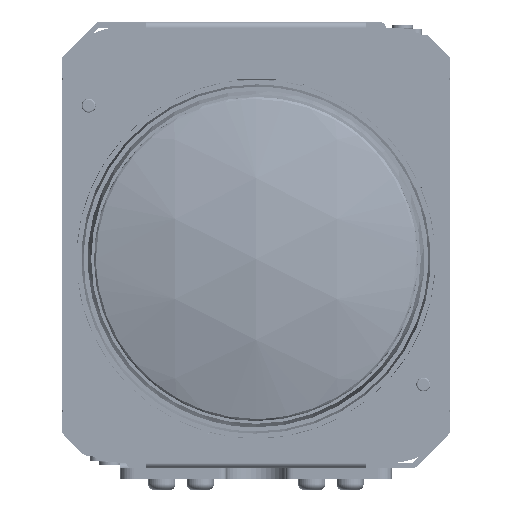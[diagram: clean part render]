
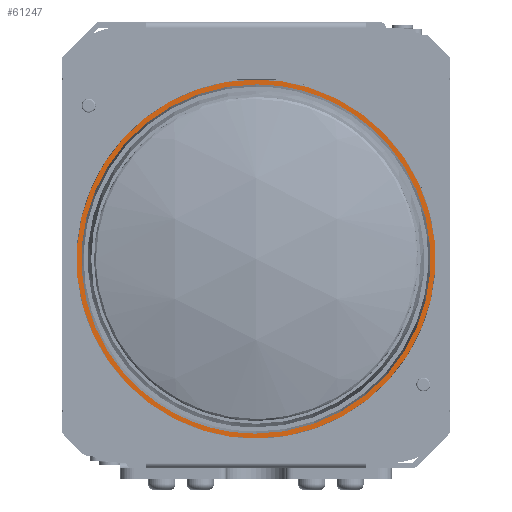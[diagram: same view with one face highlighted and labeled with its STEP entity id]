
A CAD part, left-side view. The second image highlights one B-rep face of the part: STEP entity #61247.
In plain terms, the highlighted planar face has unit normal (-1, 0, 0).
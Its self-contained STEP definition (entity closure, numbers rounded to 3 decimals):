
#61247 = ADVANCED_FACE( '', ( #114010, #114011 ), #114012, .T. );
#114010 = FACE_BOUND( '', #173422, .T. );
#114011 = FACE_OUTER_BOUND( '', #173423, .T. );
#114012 = PLANE( '', #173424 );
#173422 = EDGE_LOOP( '', ( #286467, #286468 ) );
#173423 = EDGE_LOOP( '', ( #286469, #286470 ) );
#173424 = AXIS2_PLACEMENT_3D( '', #286471, #286472, #286473 );
#286467 = ORIENTED_EDGE( '', *, *, #295802, .F. );
#286468 = ORIENTED_EDGE( '', *, *, #306083, .F. );
#286469 = ORIENTED_EDGE( '', *, *, #328115, .T. );
#286470 = ORIENTED_EDGE( '', *, *, #331112, .T. );
#286471 = CARTESIAN_POINT( '', ( -117.5, -26.78, -26.798 ) );
#286472 = DIRECTION( '', ( -1., 0., 0. ) );
#286473 = DIRECTION( '', ( 0., 0., 1. ) );
#295802 = EDGE_CURVE( '', #338317, #338319, #338320, .T. );
#306083 = EDGE_CURVE( '', #338319, #338317, #356456, .T. );
#328115 = EDGE_CURVE( '', #389218, #389219, #389220, .T. );
#331112 = EDGE_CURVE( '', #389219, #389218, #392899, .T. );
#338317 = VERTEX_POINT( '', #400647 );
#338319 = VERTEX_POINT( '', #400652 );
#338320 = ( BOUNDED_CURVE(  )B_SPLINE_CURVE( 3, ( #400655, #400656, #400657, #400658 ), .UNSPECIFIED., .F., .F. )B_SPLINE_CURVE_WITH_KNOTS( ( 4, 4 ), ( 0., 1. ), .UNSPECIFIED. )CURVE(  )GEOMETRIC_REPRESENTATION_ITEM(  )RATIONAL_B_SPLINE_CURVE( ( 1., 0.333, 0.333, 1. ) )REPRESENTATION_ITEM( '' ) );
#356456 = ( BOUNDED_CURVE(  )B_SPLINE_CURVE( 3, ( #430425, #430426, #430427, #430428 ), .UNSPECIFIED., .F., .F. )B_SPLINE_CURVE_WITH_KNOTS( ( 4, 4 ), ( 0., 1. ), .UNSPECIFIED. )CURVE(  )GEOMETRIC_REPRESENTATION_ITEM(  )RATIONAL_B_SPLINE_CURVE( ( 1., 0.333, 0.333, 1. ) )REPRESENTATION_ITEM( '' ) );
#389218 = VERTEX_POINT( '', #486446 );
#389219 = VERTEX_POINT( '', #486447 );
#389220 = B_SPLINE_CURVE_WITH_KNOTS( '', 2, ( #486448, #486449, #486450, #486451, #486452, #486453, #486454, #486455, #486456, #486457, #486458, #486459, #486460, #486461, #486462, #486463, #486464, #486465, #486466, #486467, #486468, #486469, #486470, #486471, #486472, #486473, #486474, #486475, #486476, #486477, #486478, #486479, #486480 ), .UNSPECIFIED., .F., .F., ( 3, 2, 2, 2, 2, 2, 2, 2, 2, 2, 2, 2, 2, 2, 2, 2, 3 ), ( 0., 0.063, 0.125, 0.188, 0.25, 0.313, 0.375, 0.438, 0.5, 0.563, 0.625, 0.688, 0.75, 0.813, 0.875, 0.938, 1. ), .UNSPECIFIED. );
#392899 = B_SPLINE_CURVE_WITH_KNOTS( '', 2, ( #492804, #492805, #492806, #492807, #492808, #492809, #492810, #492811, #492812, #492813, #492814, #492815, #492816, #492817, #492818, #492819, #492820, #492821, #492822, #492823, #492824, #492825, #492826, #492827, #492828, #492829, #492830, #492831, #492832, #492833, #492834, #492835, #492836 ), .UNSPECIFIED., .F., .F., ( 3, 2, 2, 2, 2, 2, 2, 2, 2, 2, 2, 2, 2, 2, 2, 2, 3 ), ( 0., 0.063, 0.125, 0.188, 0.25, 0.313, 0.375, 0.438, 0.5, 0.563, 0.625, 0.688, 0.75, 0.813, 0.875, 0.938, 1. ), .UNSPECIFIED. );
#400647 = CARTESIAN_POINT( '', ( -117.5, -25.05, 0. ) );
#400652 = CARTESIAN_POINT( '', ( -117.5, 25.05, 0. ) );
#400655 = CARTESIAN_POINT( '', ( -117.5, -25.05, 0. ) );
#400656 = CARTESIAN_POINT( '', ( -117.5, -25.05, 50.1 ) );
#400657 = CARTESIAN_POINT( '', ( -117.5, 25.05, 50.1 ) );
#400658 = CARTESIAN_POINT( '', ( -117.5, 25.05, 0. ) );
#430425 = CARTESIAN_POINT( '', ( -117.5, 25.05, 0. ) );
#430426 = CARTESIAN_POINT( '', ( -117.5, 25.05, -50.1 ) );
#430427 = CARTESIAN_POINT( '', ( -117.5, -25.05, -50.1 ) );
#430428 = CARTESIAN_POINT( '', ( -117.5, -25.05, 0. ) );
#486446 = CARTESIAN_POINT( '', ( -117.5, 25.75, 0. ) );
#486447 = CARTESIAN_POINT( '', ( -117.5, -25.75, 0. ) );
#486448 = CARTESIAN_POINT( '', ( -117.5, 25.75, 0. ) );
#486449 = CARTESIAN_POINT( '', ( -117.5, 25.75, -2.536 ) );
#486450 = CARTESIAN_POINT( '', ( -117.5, 25.255, -5.024 ) );
#486451 = CARTESIAN_POINT( '', ( -117.5, 24.761, -7.51 ) );
#486452 = CARTESIAN_POINT( '', ( -117.5, 23.79, -9.854 ) );
#486453 = CARTESIAN_POINT( '', ( -117.5, 22.82, -12.197 ) );
#486454 = CARTESIAN_POINT( '', ( -117.5, 21.41, -14.306 ) );
#486455 = CARTESIAN_POINT( '', ( -117.5, 20.002, -16.414 ) );
#486456 = CARTESIAN_POINT( '', ( -117.5, 18.208, -18.208 ) );
#486457 = CARTESIAN_POINT( '', ( -117.5, 16.415, -20.001 ) );
#486458 = CARTESIAN_POINT( '', ( -117.5, 14.306, -21.41 ) );
#486459 = CARTESIAN_POINT( '', ( -117.5, 12.198, -22.819 ) );
#486460 = CARTESIAN_POINT( '', ( -117.5, 9.854, -23.79 ) );
#486461 = CARTESIAN_POINT( '', ( -117.5, 7.512, -24.76 ) );
#486462 = CARTESIAN_POINT( '', ( -117.5, 5.024, -25.255 ) );
#486463 = CARTESIAN_POINT( '', ( -117.5, 2.537, -25.75 ) );
#486464 = CARTESIAN_POINT( '', ( -117.5, 0., -25.75 ) );
#486465 = CARTESIAN_POINT( '', ( -117.5, -2.535, -25.75 ) );
#486466 = CARTESIAN_POINT( '', ( -117.5, -5.024, -25.255 ) );
#486467 = CARTESIAN_POINT( '', ( -117.5, -7.51, -24.761 ) );
#486468 = CARTESIAN_POINT( '', ( -117.5, -9.854, -23.79 ) );
#486469 = CARTESIAN_POINT( '', ( -117.5, -12.197, -22.82 ) );
#486470 = CARTESIAN_POINT( '', ( -117.5, -14.306, -21.41 ) );
#486471 = CARTESIAN_POINT( '', ( -117.5, -16.414, -20.002 ) );
#486472 = CARTESIAN_POINT( '', ( -117.5, -18.208, -18.208 ) );
#486473 = CARTESIAN_POINT( '', ( -117.5, -20.001, -16.415 ) );
#486474 = CARTESIAN_POINT( '', ( -117.5, -21.41, -14.306 ) );
#486475 = CARTESIAN_POINT( '', ( -117.5, -22.819, -12.198 ) );
#486476 = CARTESIAN_POINT( '', ( -117.5, -23.79, -9.854 ) );
#486477 = CARTESIAN_POINT( '', ( -117.5, -24.76, -7.512 ) );
#486478 = CARTESIAN_POINT( '', ( -117.5, -25.255, -5.024 ) );
#486479 = CARTESIAN_POINT( '', ( -117.5, -25.75, -2.536 ) );
#486480 = CARTESIAN_POINT( '', ( -117.5, -25.75, 0. ) );
#492804 = CARTESIAN_POINT( '', ( -117.5, -25.75, 0. ) );
#492805 = CARTESIAN_POINT( '', ( -117.5, -25.75, 2.536 ) );
#492806 = CARTESIAN_POINT( '', ( -117.5, -25.255, 5.024 ) );
#492807 = CARTESIAN_POINT( '', ( -117.5, -24.761, 7.51 ) );
#492808 = CARTESIAN_POINT( '', ( -117.5, -23.79, 9.854 ) );
#492809 = CARTESIAN_POINT( '', ( -117.5, -22.82, 12.197 ) );
#492810 = CARTESIAN_POINT( '', ( -117.5, -21.41, 14.306 ) );
#492811 = CARTESIAN_POINT( '', ( -117.5, -20.002, 16.414 ) );
#492812 = CARTESIAN_POINT( '', ( -117.5, -18.208, 18.208 ) );
#492813 = CARTESIAN_POINT( '', ( -117.5, -16.415, 20.001 ) );
#492814 = CARTESIAN_POINT( '', ( -117.5, -14.306, 21.41 ) );
#492815 = CARTESIAN_POINT( '', ( -117.5, -12.198, 22.819 ) );
#492816 = CARTESIAN_POINT( '', ( -117.5, -9.854, 23.79 ) );
#492817 = CARTESIAN_POINT( '', ( -117.5, -7.512, 24.76 ) );
#492818 = CARTESIAN_POINT( '', ( -117.5, -5.024, 25.255 ) );
#492819 = CARTESIAN_POINT( '', ( -117.5, -2.537, 25.75 ) );
#492820 = CARTESIAN_POINT( '', ( -117.5, 0., 25.75 ) );
#492821 = CARTESIAN_POINT( '', ( -117.5, 2.535, 25.75 ) );
#492822 = CARTESIAN_POINT( '', ( -117.5, 5.024, 25.255 ) );
#492823 = CARTESIAN_POINT( '', ( -117.5, 7.51, 24.761 ) );
#492824 = CARTESIAN_POINT( '', ( -117.5, 9.854, 23.79 ) );
#492825 = CARTESIAN_POINT( '', ( -117.5, 12.197, 22.82 ) );
#492826 = CARTESIAN_POINT( '', ( -117.5, 14.306, 21.41 ) );
#492827 = CARTESIAN_POINT( '', ( -117.5, 16.414, 20.002 ) );
#492828 = CARTESIAN_POINT( '', ( -117.5, 18.208, 18.208 ) );
#492829 = CARTESIAN_POINT( '', ( -117.5, 20.001, 16.415 ) );
#492830 = CARTESIAN_POINT( '', ( -117.5, 21.41, 14.306 ) );
#492831 = CARTESIAN_POINT( '', ( -117.5, 22.819, 12.198 ) );
#492832 = CARTESIAN_POINT( '', ( -117.5, 23.79, 9.854 ) );
#492833 = CARTESIAN_POINT( '', ( -117.5, 24.76, 7.512 ) );
#492834 = CARTESIAN_POINT( '', ( -117.5, 25.255, 5.024 ) );
#492835 = CARTESIAN_POINT( '', ( -117.5, 25.75, 2.536 ) );
#492836 = CARTESIAN_POINT( '', ( -117.5, 25.75, 0. ) );
